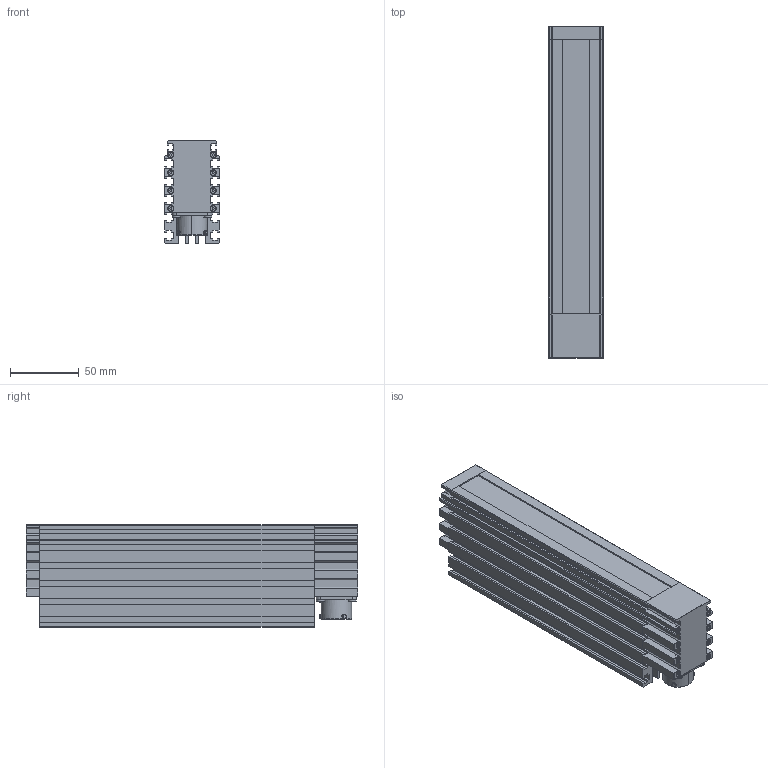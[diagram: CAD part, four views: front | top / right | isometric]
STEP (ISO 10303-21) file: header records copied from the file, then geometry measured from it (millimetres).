
FILE_DESCRIPTION (( 'STEP AP203' ), '1' );
FILE_NAME ('VLN (L_D_X)-200W _ Drawing _ L1255A (L1270A_L1286A_L1301A)-A00101.STEP', '2024-06-24T05:05:48', ( '' ), ( '' ), 'SwSTEP 2.0', 'SolidWorks 2020', '' );
FILE_SCHEMA (( 'CONFIG_CONTROL_DESIGN' ));
Length unit declared in the file: millimetre
Products named in the file (8): TMVLN0100D301A _ VLN 0100 主體 _ STEP  用; VLN (L_D_X)-200W _ Drawing _ L1255A (L1270A_L1286A_L1301A)-A00101; VLN-100W _ TMVLN0100D304A _ VLN ｳsｱｵｾｹｺﾝｰｼｻ\ _ L1254A-M00401_ STEP･ﾎ; M2 X 12 柱頭 內六角 螺絲; M3 X 6 扁頭 螺絲; VLN-100W _ TMVLN0100D303A _ VLN 側蓋 _ L1254A-M00301 _ STEP 用; Nanaboshi NAW-202-RF 板裝連接器 + 防水墊; M2 X 35 柱頭 內六角 螺絲
Assembly tree (24 placements, depth 2):
  VLN (L_D_X)-200W _ Drawing _ L1255A (L1270A_L1286A_L1301A)-A00101
    TMVLN0100D301A _ VLN 0100 主體 _ STEP  用
    VLN-100W _ TMVLN0100D303A _ VLN 側蓋 _ L1254A-M00301 _ STEP 用
    VLN-100W _ TMVLN0100D304A _ VLN ｳsｱｵｾｹｺﾝｰｼｻ\ _ L1254A-M00401_ STEP･ﾎ
    M2 X 12 柱頭 內六角 螺絲  x8
    M2 X 35 柱頭 內六角 螺絲  x8
    M3 X 6 扁頭 螺絲  x4
    Nanaboshi NAW-202-RF 板裝連接器 + 防水墊
Bounding box: 40 x 242 x 75 mm (x, y, z)
Volume: 531504.5 mm3; surface area: 141842.4 mm2
Topology: 24 solids, 24 shells, 1158 faces, 2741 edges, 1722 vertices
Faces by surface type: plane 594, cylinder 372, torus 119, cone 48, bspline 21, sphere 4
Entity records: 26874 total; most frequent: CARTESIAN_POINT 6179, ORIENTED_EDGE 4050, DIRECTION 3981, EDGE_CURVE 2025, VECTOR 1375, LINE 1375, AXIS2_PLACEMENT_3D 1303, VERTEX_POINT 1280
